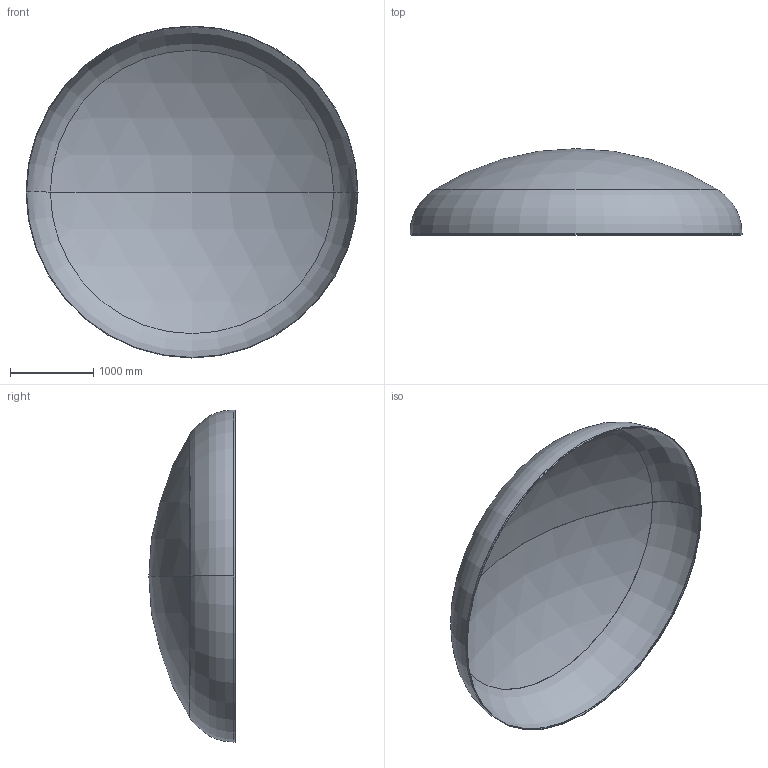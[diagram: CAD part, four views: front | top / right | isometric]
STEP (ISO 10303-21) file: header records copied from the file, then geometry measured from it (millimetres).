
FILE_DESCRIPTION (( 'STEP AP203' ), '1' );
FILE_NAME ('DIN 28013 Korbbogenform_-_Boden DIN 28013 - 4000 x 20 - I - s=6.step', '2016-07-01T21:57:33', ( '' ), ( '' ), 'SwSTEP 2.0', 'SolidWorks 2013', '' );
FILE_SCHEMA (( 'CONFIG_CONTROL_DESIGN' ));
Length unit declared in the file: millimetre
Products named in the file (1): DIN 28013 Korbbogenform_-_Boden DIN 28013 - 4000 x 20 - I - s=6
Bounding box: 4000 x 1039.55 x 4000 mm (x, y, z)
Volume: 105702228.3 mm3; surface area: 35309421.9 mm2
Topology: 1 solids, 1 shells, 13 faces, 24 edges, 14 vertices
Faces by surface type: torus 4, cylinder 4, sphere 4, plane 1
Entity records: 407 total; most frequent: DIRECTION 72, CARTESIAN_POINT 52, ORIENTED_EDGE 48, AXIS2_PLACEMENT_3D 34, EDGE_CURVE 24, CIRCLE 20, VERTEX_POINT 14, EDGE_LOOP 14
